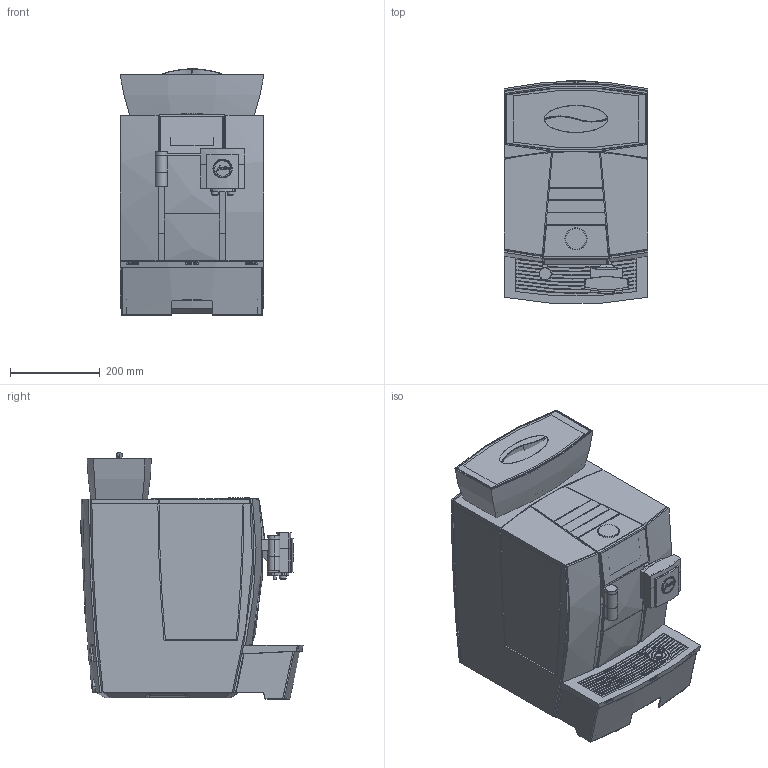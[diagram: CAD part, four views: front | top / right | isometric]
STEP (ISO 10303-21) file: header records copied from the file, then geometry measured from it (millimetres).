
FILE_DESCRIPTION (( 'STEP AP214' ), '1' );
FILE_NAME ('GIGA_X3c_GII.STEP', '2018-06-15T09:00:17', ( '' ), ( '' ), 'SwSTEP 2.0', 'SolidWorks 2015', '' );
FILE_SCHEMA (( 'AUTOMOTIVE_DESIGN' ));
Length unit declared in the file: millimetre
Products named in the file (1): GIGA_X3c_GII
Bounding box: 320.01 x 494.67 x 548.51 mm (x, y, z)
Volume: 57764268.4 mm3; surface area: 2406893.2 mm2
Topology: 46 solids, 53 shells, 1593 faces, 4128 edges, 2676 vertices
Faces by surface type: bspline 708, plane 490, cylinder 249, cone 63, torus 45, sphere 38
Full cylindrical faces by diameter (mm): 6 x1, 6.2 x2, 12 x1, 15 x2, 26 x1, 27.5 x1, 39 x2, 39.3 x1, 39.5 x1, 41 x1, 41.5 x1, 46.2 x1, 49 x1, 56.7 x1, 113.27 x1
Entity records: 70905 total; most frequent: CARTESIAN_POINT 37418, ORIENTED_EDGE 8070, DIRECTION 4667, EDGE_CURVE 4035, VERTEX_POINT 2637, B_SPLINE_CURVE_WITH_KNOTS 1764, EDGE_LOOP 1720, FACE_OUTER_BOUND 1616
